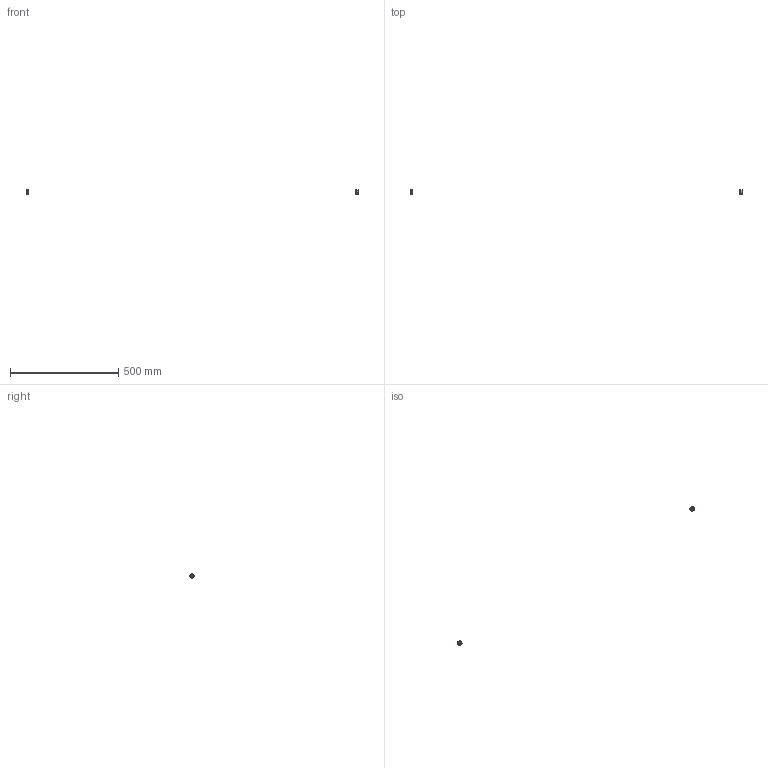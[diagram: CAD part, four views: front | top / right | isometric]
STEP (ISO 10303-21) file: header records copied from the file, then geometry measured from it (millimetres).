
FILE_DESCRIPTION(/* description */ (''),/* implementation_level */ '2;1');
FILE_NAME(/* name */ 'Y-DRIV~3',/* time_stamp */ '2014-02-14T19:38:28+01:00',/* author */ (''),/* organization */ (''),/* preprocessor_version */ 'ST-DEVELOPER v14',/* originating_system */ '',/* authorisation */ '');
FILE_SCHEMA (('AUTOMOTIVE_DESIGN'));
Length unit declared in the file: millimetre
Products named in the file (2): Document; ball bearing 5x19x6mm
Assembly tree (2 placements, depth 2):
  Document
    ball bearing 5x19x6mm  x2
Bounding box: 1532 x 18.97 x 19 mm (x, y, z)
Volume: 6346.3 mm3; surface area: 3921.1 mm2
Topology: 4 solids, 4 shells, 24 faces, 48 edges, 32 vertices
Faces by surface type: bspline 16, plane 8
Entity records: 1146 total; most frequent: CARTESIAN_POINT 611, ORIENTED_EDGE 72, PCURVE 72, DEFINITIONAL_REPRESENTATION 72, B_SPLINE_CURVE_WITH_KNOTS 48, SURFACE_CURVE 36, EDGE_CURVE 36, EDGE_LOOP 24
